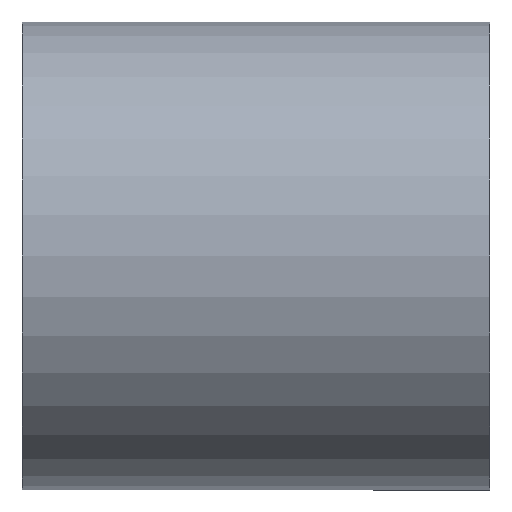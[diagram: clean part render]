
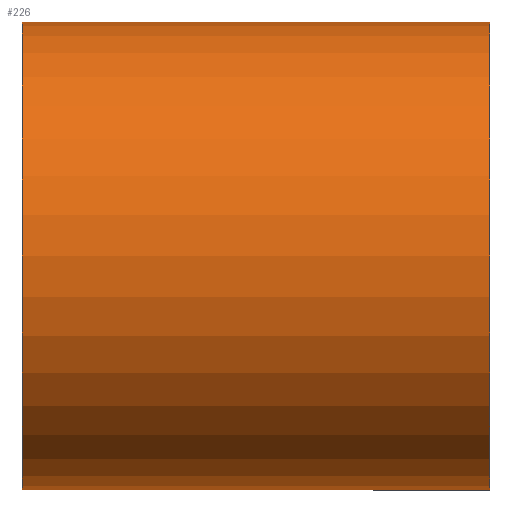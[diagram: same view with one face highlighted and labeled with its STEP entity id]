
A CAD part, front view. The second image highlights one B-rep face of the part: STEP entity #226.
In plain terms, the highlighted cylindrical face has radius 12.5 mm (diameter 25 mm), a partial arc.
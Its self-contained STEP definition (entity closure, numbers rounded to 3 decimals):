
#2 = AXIS2_PLACEMENT_3D ( 'NONE', #310, #703, #530 ) ;
#10 = VERTEX_POINT ( 'NONE', #432 ) ;
#16 = AXIS2_PLACEMENT_3D ( 'NONE', #160, #666, #393 ) ;
#17 = VECTOR ( 'NONE', #158, 1000. ) ;
#27 = CARTESIAN_POINT ( 'NONE',  ( 0., 0., -12.5 ) ) ;
#60 = EDGE_CURVE ( 'NONE', #10, #126, #545, .T. ) ;
#62 = FACE_OUTER_BOUND ( 'NONE', #345, .T. ) ;
#78 = DIRECTION ( 'NONE',  ( 0., 0., 1. ) ) ;
#126 = VERTEX_POINT ( 'NONE', #185 ) ;
#133 = ORIENTED_EDGE ( 'NONE', *, *, #399, .T. ) ;
#136 = DIRECTION ( 'NONE',  ( -1., 0., 0. ) ) ;
#158 = DIRECTION ( 'NONE',  ( -1., 0., 0. ) ) ;
#160 = CARTESIAN_POINT ( 'NONE',  ( -12.5, 0., 0. ) ) ;
#185 = CARTESIAN_POINT ( 'NONE',  ( -12.5, 0., 12.5 ) ) ;
#188 = CARTESIAN_POINT ( 'NONE',  ( 12.5, 0., 0. ) ) ;
#193 = VECTOR ( 'NONE', #475, 1000. ) ;
#198 = CARTESIAN_POINT ( 'NONE',  ( 12.5, 0., -12.5 ) ) ;
#226 = ADVANCED_FACE ( 'NONE', ( #62 ), #334, .T. ) ;
#310 = CARTESIAN_POINT ( 'NONE',  ( 0., 0., 0. ) ) ;
#334 = CYLINDRICAL_SURFACE ( 'NONE', #2, 12.5 ) ;
#345 = EDGE_LOOP ( 'NONE', ( #684, #133, #695, #366 ) ) ;
#355 = CARTESIAN_POINT ( 'NONE',  ( 12.5, 0., 12.5 ) ) ;
#366 = ORIENTED_EDGE ( 'NONE', *, *, #60, .F. ) ;
#393 = DIRECTION ( 'NONE',  ( 0., 0., 1. ) ) ;
#399 = EDGE_CURVE ( 'NONE', #402, #429, #691, .T. ) ;
#402 = VERTEX_POINT ( 'NONE', #198 ) ;
#429 = VERTEX_POINT ( 'NONE', #355 ) ;
#432 = CARTESIAN_POINT ( 'NONE',  ( -12.5, 0., -12.5 ) ) ;
#475 = DIRECTION ( 'NONE',  ( -1., 0., 0. ) ) ;
#478 = LINE ( 'NONE', #696, #193 ) ;
#490 = AXIS2_PLACEMENT_3D ( 'NONE', #188, #136, #78 ) ;
#512 = EDGE_CURVE ( 'NONE', #429, #126, #478, .T. ) ;
#529 = LINE ( 'NONE', #27, #17 ) ;
#530 = DIRECTION ( 'NONE',  ( 0., 0., 1. ) ) ;
#542 = EDGE_CURVE ( 'NONE', #402, #10, #529, .T. ) ;
#545 = CIRCLE ( 'NONE', #16, 12.5 ) ;
#666 = DIRECTION ( 'NONE',  ( -1., 0., 0. ) ) ;
#684 = ORIENTED_EDGE ( 'NONE', *, *, #542, .F. ) ;
#691 = CIRCLE ( 'NONE', #490, 12.5 ) ;
#695 = ORIENTED_EDGE ( 'NONE', *, *, #512, .T. ) ;
#696 = CARTESIAN_POINT ( 'NONE',  ( 0., 0., 12.5 ) ) ;
#703 = DIRECTION ( 'NONE',  ( -1., 0., 0. ) ) ;
